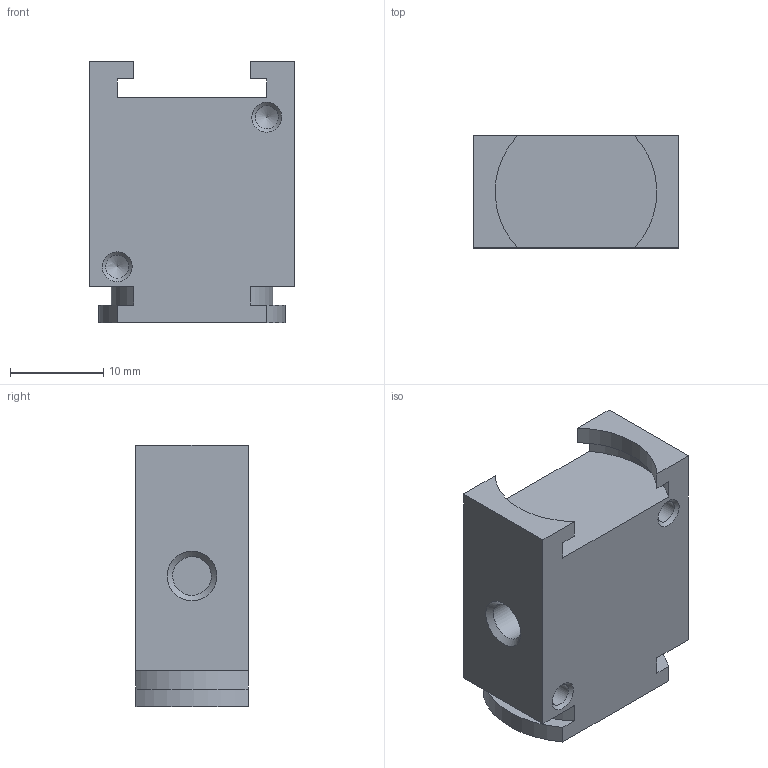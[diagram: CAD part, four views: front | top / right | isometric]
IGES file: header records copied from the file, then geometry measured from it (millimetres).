
Global section: file name: 305_06_00; native system: Autodesk Inventor 2014; preprocessor: unknown; author: A. Manieri; organization: Pneumax S.p.A.; date: 20161004.150756; units: millimetre
Bounding box: 22 x 12 x 28 mm (x, y, z)
Volume: 6193.6 mm3; surface area: 2716 mm2
Topology: 1 solids, 1 shells, 31 faces, 88 edges, 60 vertices
Faces by surface type: bspline 31
